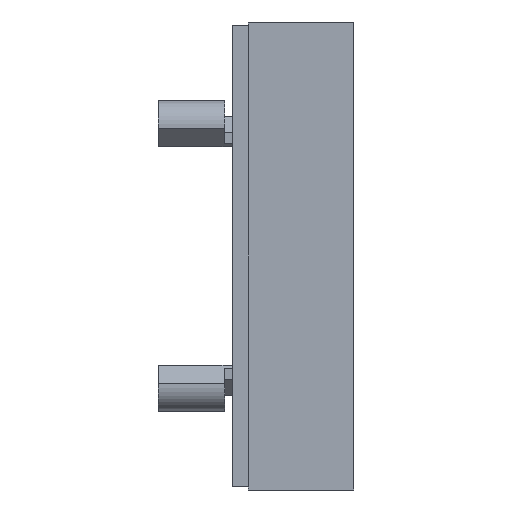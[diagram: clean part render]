
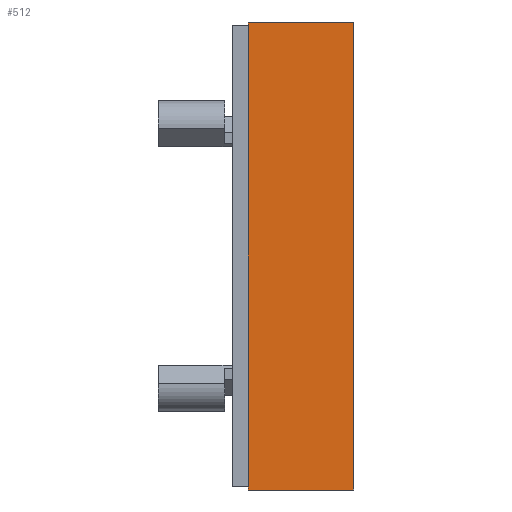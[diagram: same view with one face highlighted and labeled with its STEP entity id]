
A CAD part, left-side view. The second image highlights one B-rep face of the part: STEP entity #512.
In plain terms, the highlighted planar face has unit normal (-1, 0, 0).
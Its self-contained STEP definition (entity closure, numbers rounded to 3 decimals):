
#512 = ADVANCED_FACE( '', ( #1140 ), #1141, .F. );
#1140 = FACE_OUTER_BOUND( '', #1805, .T. );
#1141 = PLANE( '', #1806 );
#1805 = EDGE_LOOP( '', ( #2956, #2957, #2958, #2959 ) );
#1806 = AXIS2_PLACEMENT_3D( '', #2960, #2961, #2962 );
#2956 = ORIENTED_EDGE( '', *, *, #3478, .T. );
#2957 = ORIENTED_EDGE( '', *, *, #3516, .T. );
#2958 = ORIENTED_EDGE( '', *, *, #3413, .F. );
#2959 = ORIENTED_EDGE( '', *, *, #3323, .F. );
#2960 = CARTESIAN_POINT( '', ( -74., 13.5, -30. ) );
#2961 = DIRECTION( '', ( 1., 0., 0. ) );
#2962 = DIRECTION( '', ( 0., 0., -1. ) );
#3323 = EDGE_CURVE( '', #3891, #3893, #3894, .T. );
#3413 = EDGE_CURVE( '', #3893, #4024, #4025, .T. );
#3478 = EDGE_CURVE( '', #3891, #4109, #4111, .T. );
#3516 = EDGE_CURVE( '', #4109, #4024, #4158, .T. );
#3891 = VERTEX_POINT( '', #4588 );
#3893 = VERTEX_POINT( '', #4591 );
#3894 = LINE( '', #4592, #4593 );
#4024 = VERTEX_POINT( '', #4752 );
#4025 = LINE( '', #4753, #4754 );
#4109 = VERTEX_POINT( '', #4854 );
#4111 = LINE( '', #4857, #4858 );
#4158 = LINE( '', #4915, #4916 );
#4588 = CARTESIAN_POINT( '', ( -74., 13.5, -30. ) );
#4591 = CARTESIAN_POINT( '', ( -74., 13.5, 30. ) );
#4592 = CARTESIAN_POINT( '', ( -74., 13.5, -30. ) );
#4593 = VECTOR( '', #5265, 1000. );
#4752 = CARTESIAN_POINT( '', ( -74., 0., 30. ) );
#4753 = CARTESIAN_POINT( '', ( -74., 13.5, 30. ) );
#4754 = VECTOR( '', #5370, 1000. );
#4854 = CARTESIAN_POINT( '', ( -74., 0., -30. ) );
#4857 = CARTESIAN_POINT( '', ( -74., 13.5, -30. ) );
#4858 = VECTOR( '', #5430, 1000. );
#4915 = CARTESIAN_POINT( '', ( -74., 0., -30. ) );
#4916 = VECTOR( '', #5471, 1000. );
#5265 = DIRECTION( '', ( 0., 0., 1. ) );
#5370 = DIRECTION( '', ( 0., -1., 0. ) );
#5430 = DIRECTION( '', ( 0., -1., 0. ) );
#5471 = DIRECTION( '', ( 0., 0., 1. ) );
